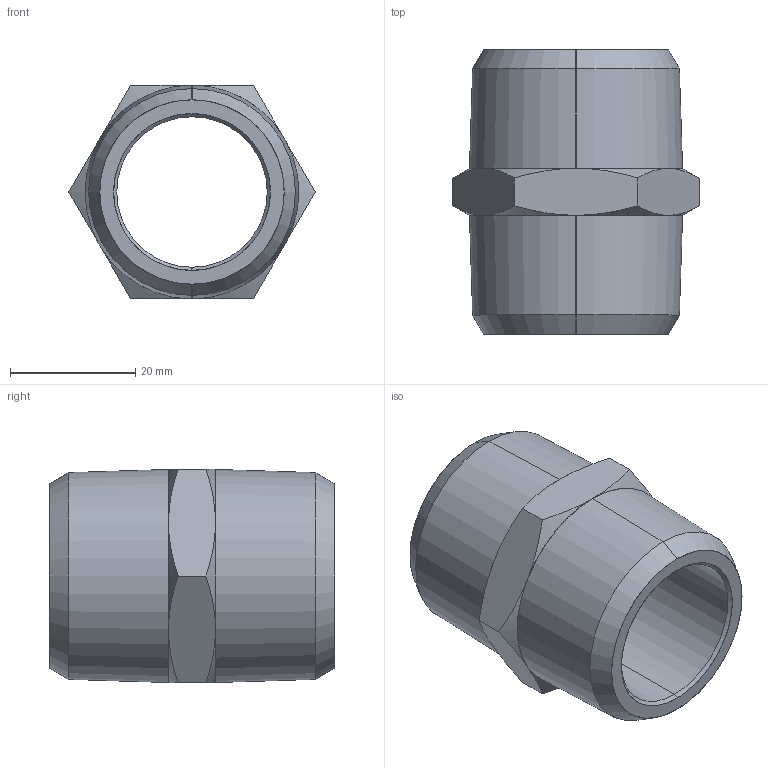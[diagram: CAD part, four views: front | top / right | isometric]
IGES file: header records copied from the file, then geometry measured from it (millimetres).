
Start section: SolidWorks IGES file using analytic representation for surfaces
Global section: file name: K:\Disegni Esecutivi\Accessori\2000\ASSIEMI_.IGES_50000\0200000010900.IGS; native system: SolidWorks 2007; preprocessor: SolidWorks 2007; author: cad02; date: 071018.103931; units: millimetre
Bounding box: 39.26 x 45.5 x 34 mm (x, y, z)
Surface area: 8866.7 mm2 (no closed solid volume)
Topology: 0 solids, 0 shells, 36 faces, 688 edges, 688 vertices
Faces by surface type: revolution 26, bspline 10
